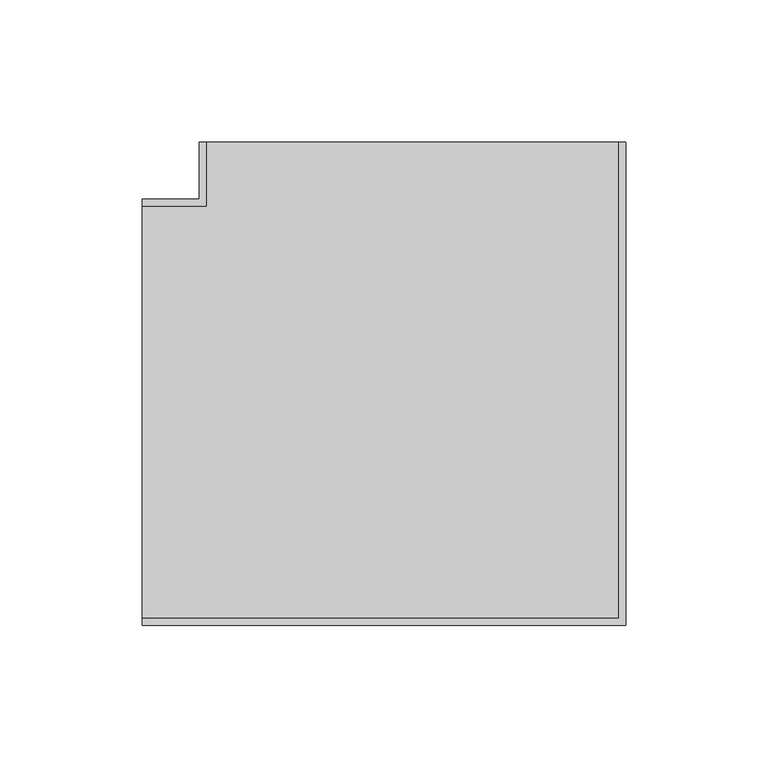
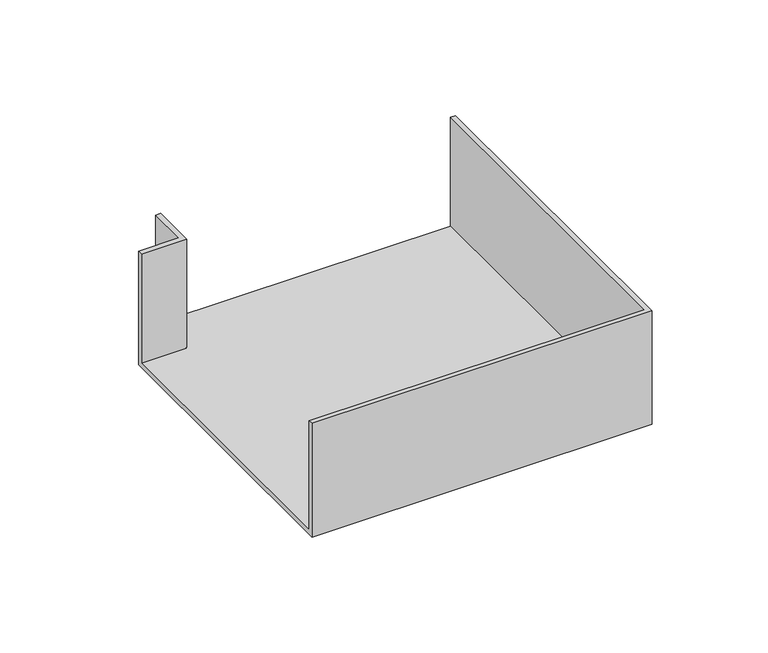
"""IFC4 building model written with IfcOpenShell, lengths in millimetres: cable carrier fitting geometry, КНС_УголПлоский NPAN_ILC_DKC : Угол плоский NPAN_DKC."""

from ifc_helpers import new_model, si_unit, origin, place, context, project, spatial, faceted_brep, source, transform, mapped, element, save


def cable_carrier_fitting_9a72e03a(model_context):
    return source(origin(), model_context, "Body", "Brep", [
        faceted_brep([(-95.0, 75.0, -30.0), (-95.0, -75.0, -30.0), (-95.0, -75.0, 30.0), (-95.0, -72.5, 30.0), (-95.0, -72.5, -27.5), (-95.0, 72.5, -27.5), (-95.0, 72.5, 30.0), (-95.0, 75.0, 30.0), (-75.0, 75.0, -30.0), (-75.0, 95.0, -30.0), (75.0, 95.0, -30.0), (75.0, -75.0, -30.0), (75.0, -75.0, 30.0), (75.0, 95.0, 30.0), (72.5, 95.0, 30.0), (72.5, -72.5, 30.0), (72.5, -72.5, -27.5), (72.5, 95.0, -27.5), (-72.5, 95.0, -27.5), (-72.5, 72.5, -27.5), (-72.5, 72.5, 30.0), (-72.5, 95.0, 30.0), (-75.0, 95.0, 30.0), (-75.0, 75.0, 30.0)], [[[0, 1, 2, 3, 4, 5, 6, 7]], [[1, 0, 8, 9, 10, 11]], [[2, 1, 11, 12]], [[3, 2, 12, 13, 14, 15]], [[4, 3, 15, 16]], [[5, 4, 16, 17, 18, 19]], [[6, 5, 19, 20]], [[7, 6, 20, 21, 22, 23]], [[0, 7, 23, 8]], [[9, 22, 21, 18, 17, 14, 13, 10]], [[12, 11, 10, 13]], [[16, 15, 14, 17]], [[20, 19, 18, 21]], [[8, 23, 22, 9]]]),
    ])


if __name__ == "__main__":
    model = new_model("IFC4")
    model_context = context("Model", 3, world=origin())
    ifc_project = project(units=[si_unit("LENGTHUNIT", "METRE", prefix="MILLI")], contexts=[model_context])
    site = spatial("IfcSite", under=ifc_project)
    building = spatial("IfcBuilding", under=site)
    placement = place(None, origin())
    cable_carrier_fitting_shape = cable_carrier_fitting_9a72e03a(model_context)
    element("IfcCableCarrierFitting", 1, ObjectType="КНС_УголПлоский NPAN_ILC_DKC : Угол плоский NPAN_DKC", at=placement, inside=building, context=model_context, shape_type="MappedRepresentation", body=[
        mapped(cable_carrier_fitting_shape, transform((0.0, 0.0, 0.0), x_axis=(1.0, 0.0, 0.0), y_axis=(0.0, 1.0, 0.0), z_axis=(0.0, 0.0, 1.0))),
    ])
    save(model, "model.ifc")
